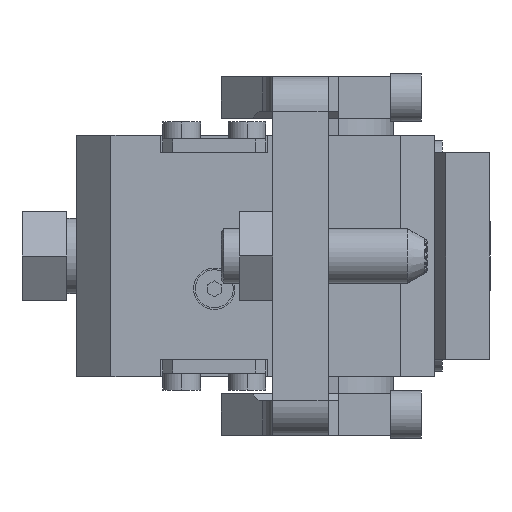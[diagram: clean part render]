
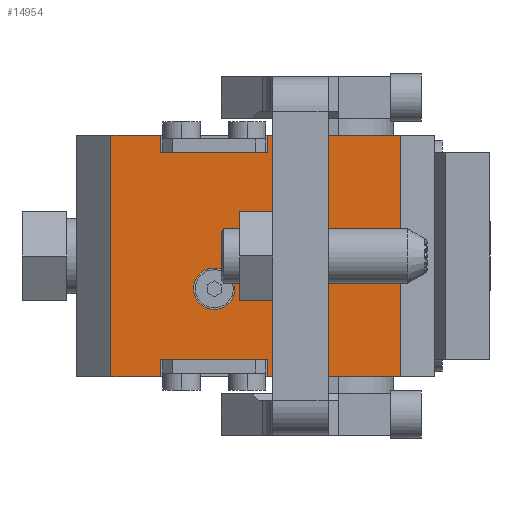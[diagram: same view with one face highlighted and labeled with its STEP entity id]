
A CAD part, left-side view. The second image highlights one B-rep face of the part: STEP entity #14954.
In plain terms, the highlighted planar face has unit normal (-1, 0, 0).
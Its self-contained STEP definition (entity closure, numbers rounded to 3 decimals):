
#268 = DIRECTION ( 'NONE',  ( 0., -1., 0. ) ) ;
#275 = CARTESIAN_POINT ( 'NONE',  ( -28., 25.75, -15. ) ) ;
#287 = LINE ( 'NONE', #275, #2610 ) ;
#522 = VECTOR ( 'NONE', #11568, 1000. ) ;
#585 = CIRCLE ( 'NONE', #12095, 3. ) ;
#850 = VECTOR ( 'NONE', #11963, 1000. ) ;
#924 = CARTESIAN_POINT ( 'NONE',  ( -28., 33., -17.5 ) ) ;
#1145 = EDGE_CURVE ( 'NONE', #6116, #5783, #8798, .T. ) ;
#1302 = EDGE_CURVE ( 'NONE', #6302, #6116, #7470, .T. ) ;
#1368 = EDGE_CURVE ( 'NONE', #6302, #6458, #6672, .T. ) ;
#1502 = EDGE_CURVE ( 'NONE', #6458, #6743, #5521, .T. ) ;
#1722 = CARTESIAN_POINT ( 'NONE',  ( -28., 25.75, 17.5 ) ) ;
#1800 = EDGE_CURVE ( 'NONE', #6743, #6871, #2770, .T. ) ;
#1977 = EDGE_CURVE ( 'NONE', #6871, #6925, #287, .T. ) ;
#2090 = EDGE_CURVE ( 'NONE', #7016, #6925, #11992, .T. ) ;
#2099 = DIRECTION ( 'NONE',  ( 0., 0., -1. ) ) ;
#2115 = FACE_BOUND ( 'NONE', #3048, .T. ) ;
#2131 = EDGE_CURVE ( 'NONE', #7016, #7074, #11508, .T. ) ;
#2315 = EDGE_CURVE ( 'NONE', #7094, #7074, #6155, .T. ) ;
#2409 = DIRECTION ( 'NONE',  ( 0., 1., 0. ) ) ;
#2462 = EDGE_CURVE ( 'NONE', #5601, #7094, #11558, .T. ) ;
#2526 = EDGE_CURVE ( 'NONE', #13953, #13764, #585, .T. ) ;
#2610 = VECTOR ( 'NONE', #268, 1000. ) ;
#2701 = ORIENTED_EDGE ( 'NONE', *, *, #1368, .T. ) ;
#2755 = DIRECTION ( 'NONE',  ( 0., 0., 1. ) ) ;
#2758 = CARTESIAN_POINT ( 'NONE',  ( -28., 25.75, -25. ) ) ;
#2770 = LINE ( 'NONE', #2758, #4929 ) ;
#2821 = ORIENTED_EDGE ( 'NONE', *, *, #1502, .T. ) ;
#2924 = ORIENTED_EDGE ( 'NONE', *, *, #1800, .T. ) ;
#2953 = EDGE_LOOP ( 'NONE', ( #13447, #13794, #13726, #14397, #2701, #2821, #2924, #3102, #3158, #3234, #3412, #3556 ) ) ;
#3048 = EDGE_LOOP ( 'NONE', ( #7829, #4019 ) ) ;
#3102 = ORIENTED_EDGE ( 'NONE', *, *, #1977, .T. ) ;
#3158 = ORIENTED_EDGE ( 'NONE', *, *, #2090, .F. ) ;
#3234 = ORIENTED_EDGE ( 'NONE', *, *, #2131, .T. ) ;
#3412 = ORIENTED_EDGE ( 'NONE', *, *, #2315, .F. ) ;
#3556 = ORIENTED_EDGE ( 'NONE', *, *, #2462, .F. ) ;
#3786 = CARTESIAN_POINT ( 'NONE',  ( -28., 10.25, 25. ) ) ;
#4019 = ORIENTED_EDGE ( 'NONE', *, *, #5822, .F. ) ;
#4112 = DIRECTION ( 'NONE',  ( 1., 0., 0. ) ) ;
#4640 = AXIS2_PLACEMENT_3D ( 'NONE', #5774, #4112, #2409 ) ;
#4854 = DIRECTION ( 'NONE',  ( -1., 0., 0. ) ) ;
#4869 = DIRECTION ( 'NONE',  ( 0., 1., 0. ) ) ;
#4929 = VECTOR ( 'NONE', #2755, 1000. ) ;
#5040 = CARTESIAN_POINT ( 'NONE',  ( -28., 18., -4.75 ) ) ;
#5147 = AXIS2_PLACEMENT_3D ( 'NONE', #5040, #4854, #4869 ) ;
#5426 = DIRECTION ( 'NONE',  ( 0., -1., 0. ) ) ;
#5431 = CARTESIAN_POINT ( 'NONE',  ( -28., 33., -17.5 ) ) ;
#5441 = LINE ( 'NONE', #3786, #14289 ) ;
#5521 = LINE ( 'NONE', #5431, #6791 ) ;
#5532 = VECTOR ( 'NONE', #11297, 1000. ) ;
#5601 = VERTEX_POINT ( 'NONE', #11926 ) ;
#5722 = VERTEX_POINT ( 'NONE', #8641 ) ;
#5774 = CARTESIAN_POINT ( 'NONE',  ( -28., 33., 17.5 ) ) ;
#5783 = VERTEX_POINT ( 'NONE', #8191 ) ;
#5789 = CIRCLE ( 'NONE', #5147, 3. ) ;
#5822 = EDGE_CURVE ( 'NONE', #13764, #13953, #5789, .T. ) ;
#5966 = VECTOR ( 'NONE', #11319, 1000. ) ;
#5976 = DIRECTION ( 'NONE',  ( 0., 0., -1. ) ) ;
#5991 = CARTESIAN_POINT ( 'NONE',  ( -28., -9., 17.5 ) ) ;
#6116 = VERTEX_POINT ( 'NONE', #1722 ) ;
#6155 = LINE ( 'NONE', #5991, #12982 ) ;
#6302 = VERTEX_POINT ( 'NONE', #10892 ) ;
#6458 = VERTEX_POINT ( 'NONE', #924 ) ;
#6587 = DIRECTION ( 'NONE',  ( 0., 0., -1. ) ) ;
#6600 = CARTESIAN_POINT ( 'NONE',  ( -28., 33., 17.5 ) ) ;
#6672 = LINE ( 'NONE', #6600, #7644 ) ;
#6743 = VERTEX_POINT ( 'NONE', #10709 ) ;
#6791 = VECTOR ( 'NONE', #5426, 1000. ) ;
#6871 = VERTEX_POINT ( 'NONE', #13767 ) ;
#6925 = VERTEX_POINT ( 'NONE', #12458 ) ;
#7016 = VERTEX_POINT ( 'NONE', #12221 ) ;
#7074 = VERTEX_POINT ( 'NONE', #10418 ) ;
#7094 = VERTEX_POINT ( 'NONE', #11609 ) ;
#7287 = DIRECTION ( 'NONE',  ( 0., -1., 0. ) ) ;
#7298 = CARTESIAN_POINT ( 'NONE',  ( -28., 33., 17.5 ) ) ;
#7339 = PLANE ( 'NONE',  #4640 ) ;
#7470 = LINE ( 'NONE', #7298, #8195 ) ;
#7644 = VECTOR ( 'NONE', #6587, 1000. ) ;
#7652 = DIRECTION ( 'NONE',  ( 0., 1., 0. ) ) ;
#7729 = DIRECTION ( 'NONE',  ( -1., 0., 0. ) ) ;
#7750 = CARTESIAN_POINT ( 'NONE',  ( -28., 18., -4.75 ) ) ;
#7829 = ORIENTED_EDGE ( 'NONE', *, *, #2526, .F. ) ;
#8191 = CARTESIAN_POINT ( 'NONE',  ( -28., 25.75, 15. ) ) ;
#8195 = VECTOR ( 'NONE', #7287, 1000. ) ;
#8567 = CARTESIAN_POINT ( 'NONE',  ( -28., 15., -4.75 ) ) ;
#8641 = CARTESIAN_POINT ( 'NONE',  ( -28., 10.25, 15. ) ) ;
#8687 = DIRECTION ( 'NONE',  ( 0., 0., -1. ) ) ;
#8691 = CARTESIAN_POINT ( 'NONE',  ( -28., 25.75, 25. ) ) ;
#8798 = LINE ( 'NONE', #8691, #9662 ) ;
#9662 = VECTOR ( 'NONE', #8687, 1000. ) ;
#10092 = CARTESIAN_POINT ( 'NONE',  ( -28., 21., -4.75 ) ) ;
#10418 = CARTESIAN_POINT ( 'NONE',  ( -28., -9., -17.5 ) ) ;
#10709 = CARTESIAN_POINT ( 'NONE',  ( -28., 25.75, -17.5 ) ) ;
#10892 = CARTESIAN_POINT ( 'NONE',  ( -28., 33., 17.5 ) ) ;
#11297 = DIRECTION ( 'NONE',  ( 0., -1., 0. ) ) ;
#11319 = DIRECTION ( 'NONE',  ( 0., -1., 0. ) ) ;
#11352 = CARTESIAN_POINT ( 'NONE',  ( -28., 33., 17.5 ) ) ;
#11508 = LINE ( 'NONE', #11547, #522 ) ;
#11547 = CARTESIAN_POINT ( 'NONE',  ( -28., 33., -17.5 ) ) ;
#11558 = LINE ( 'NONE', #11352, #5532 ) ;
#11568 = DIRECTION ( 'NONE',  ( 0., -1., 0. ) ) ;
#11609 = CARTESIAN_POINT ( 'NONE',  ( -28., -9., 17.5 ) ) ;
#11926 = CARTESIAN_POINT ( 'NONE',  ( -28., 10.25, 17.5 ) ) ;
#11963 = DIRECTION ( 'NONE',  ( 0., 0., 1. ) ) ;
#11978 = CARTESIAN_POINT ( 'NONE',  ( -28., 10.25, -25. ) ) ;
#11992 = LINE ( 'NONE', #11978, #850 ) ;
#12095 = AXIS2_PLACEMENT_3D ( 'NONE', #7750, #7729, #7652 ) ;
#12221 = CARTESIAN_POINT ( 'NONE',  ( -28., 10.25, -17.5 ) ) ;
#12458 = CARTESIAN_POINT ( 'NONE',  ( -28., 10.25, -15. ) ) ;
#12582 = CARTESIAN_POINT ( 'NONE',  ( -28., 25.75, 15. ) ) ;
#12982 = VECTOR ( 'NONE', #5976, 1000. ) ;
#13014 = FACE_OUTER_BOUND ( 'NONE', #2953, .T. ) ;
#13447 = ORIENTED_EDGE ( 'NONE', *, *, #14003, .T. ) ;
#13726 = ORIENTED_EDGE ( 'NONE', *, *, #1145, .F. ) ;
#13764 = VERTEX_POINT ( 'NONE', #8567 ) ;
#13767 = CARTESIAN_POINT ( 'NONE',  ( -28., 25.75, -15. ) ) ;
#13794 = ORIENTED_EDGE ( 'NONE', *, *, #13952, .F. ) ;
#13952 = EDGE_CURVE ( 'NONE', #5783, #5722, #14020, .T. ) ;
#13953 = VERTEX_POINT ( 'NONE', #10092 ) ;
#14003 = EDGE_CURVE ( 'NONE', #5601, #5722, #5441, .T. ) ;
#14020 = LINE ( 'NONE', #12582, #5966 ) ;
#14289 = VECTOR ( 'NONE', #2099, 1000. ) ;
#14397 = ORIENTED_EDGE ( 'NONE', *, *, #1302, .F. ) ;
#14954 = ADVANCED_FACE ( 'NONE', ( #13014, #2115 ), #7339, .F. ) ;
